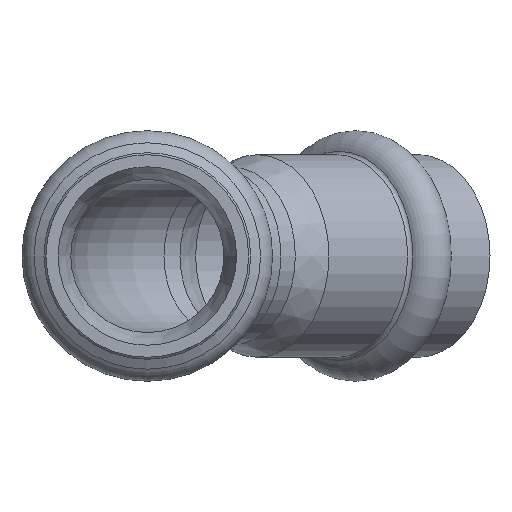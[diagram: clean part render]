
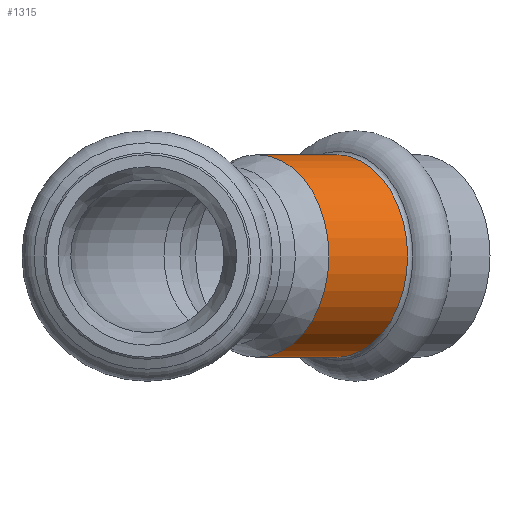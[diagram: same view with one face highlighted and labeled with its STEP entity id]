
A CAD part, left-side view. The second image highlights one B-rep face of the part: STEP entity #1315.
In plain terms, the highlighted cylindrical face has radius 12.575 mm (diameter 25.15 mm), a full revolution.
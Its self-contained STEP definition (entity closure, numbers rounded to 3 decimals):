
#1076=CARTESIAN_POINT('',(44.723,-14.513,0.0));
#1077=VERTEX_POINT('',#1076);
#1078=CARTESIAN_POINT('',(35.831,-23.405,0.0));
#1079=DIRECTION('',(0.707,-0.707,0.0));
#1080=DIRECTION('',(0.707,0.707,0.0));
#1081=AXIS2_PLACEMENT_3D('',#1078,#1079,#1080);
#1082=CIRCLE('',#1081,12.575);
#1083=EDGE_CURVE('',#1077,#1077,#1082,.T.);
#1289=CARTESIAN_POINT('',(34.962,-4.752,0.0));
#1290=VERTEX_POINT('',#1289);
#1291=CARTESIAN_POINT('',(26.07,-13.644,0.0));
#1292=DIRECTION('',(0.707,-0.707,0.0));
#1293=DIRECTION('',(0.707,0.707,0.0));
#1294=AXIS2_PLACEMENT_3D('',#1291,#1292,#1293);
#1295=CIRCLE('',#1294,12.575);
#1296=EDGE_CURVE('',#1290,#1290,#1295,.T.);
#1304=CARTESIAN_POINT('',(30.951,-18.524,0.0));
#1305=DIRECTION('',(0.707,-0.707,0.0));
#1306=DIRECTION('',(0.707,0.707,0.0));
#1307=AXIS2_PLACEMENT_3D('',#1304,#1305,#1306);
#1308=CYLINDRICAL_SURFACE('',#1307,12.575);
#1309=ORIENTED_EDGE('',*,*,#1083,.F.);
#1310=EDGE_LOOP('',(#1309));
#1311=FACE_OUTER_BOUND('',#1310,.T.);
#1312=ORIENTED_EDGE('',*,*,#1296,.T.);
#1313=EDGE_LOOP('',(#1312));
#1314=FACE_BOUND('',#1313,.T.);
#1315=ADVANCED_FACE('',(#1311,#1314),#1308,.T.);
